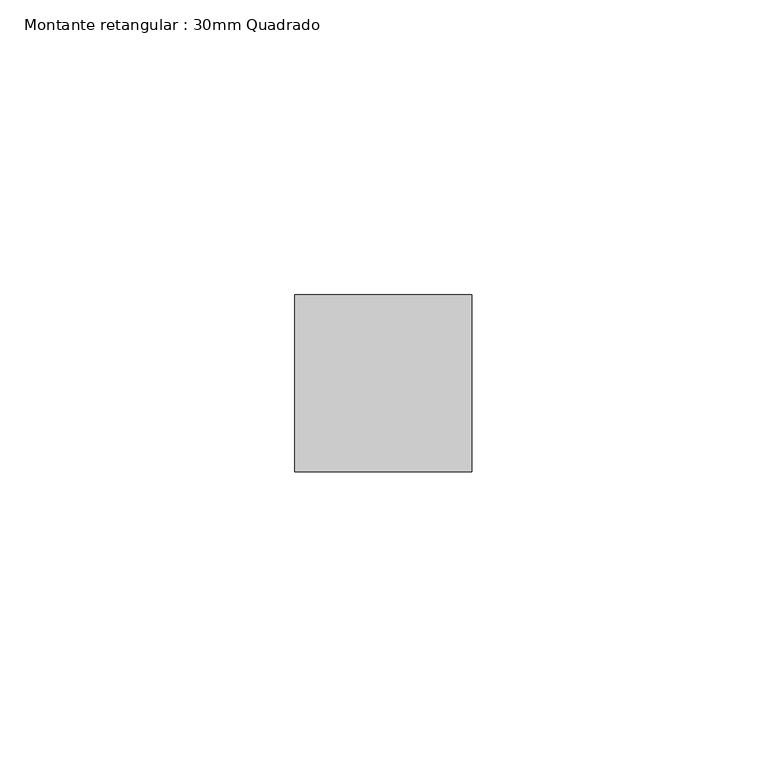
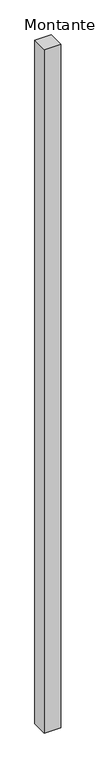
"""IFC4 building model written with IfcOpenShell, lengths in millimetres: member geometry, Montante retangular : 30mm Quadrado."""

import ifcopenshell
import ifcopenshell.guid

model = None  # the IFC model being written
_history = None  # IfcOwnerHistory: only IFC2X3 demands one
_inside = {}  # id of a spatial element -> (the spatial element, [elements in it])
_under = {}  # id of a project, library or spatial element -> (it, [spatial elements below it])
_declared = {}  # id of a project -> (the project, [libraries it declares])
_typed = {}  # id of a type object -> (the type object, [elements of that type])
_made_of = {}  # id of a material, layer set ... -> (it, [elements and type objects made of it])


def new_model(schema):
    """Start an empty IFC model of exactly this schema.

    Asked for "IFC4X3", IfcOpenShell would pick the latest addendum, in which some entities
    have other attributes; the version numbers below select the first issue.
    IFC2X3 requires an IfcOwnerHistory on every rooted entity: one is made here for all.
    """
    global model, _history
    if schema == "IFC4X3":
        model = ifcopenshell.file(schema_version=(4, 3, 0, 0))
    else:
        model = ifcopenshell.file(schema=schema)
    _inside.clear()
    _under.clear()
    _declared.clear()
    _typed.clear()
    _made_of.clear()
    _history = None
    if model.schema == "IFC2X3":
        org = make("IfcOrganization", Name="unknown")
        user = make(
            "IfcPersonAndOrganization",
            ThePerson=make("IfcPerson", FamilyName="unknown"),
            TheOrganization=org,
        )
        app = make(
            "IfcApplication",
            ApplicationDeveloper=org,
            Version="unknown",
            ApplicationFullName="unknown",
            ApplicationIdentifier="unknown",
        )
        _history = make(
            "IfcOwnerHistory",
            OwningUser=user,
            OwningApplication=app,
            ChangeAction="ADDED",
            CreationDate=0,
        )
    return model


def make(cls, **values):
    """One entity of the class cls with the attributes given. An attribute that is None is left unset."""
    return model.create_entity(
        cls, **{name: value for name, value in values.items() if value is not None}
    )


def rooted(cls, **values):
    """An entity with a GlobalId (a new one), such as an element, a storey or a relation."""
    return make(cls, GlobalId=ifcopenshell.guid.new(), OwnerHistory=_history, **values)


def si_unit(unit_type, name, prefix=None):
    """IfcSIUnit, for example si_unit("LENGTHUNIT", "METRE", prefix="MILLI")."""
    return make("IfcSIUnit", UnitType=unit_type, Prefix=prefix, Name=name)


def assignment(units):
    """IfcUnitAssignment: the units of a project."""
    return None if units is None else make("IfcUnitAssignment", Units=units)


def point(xyz):
    """IfcCartesianPoint."""
    return None if xyz is None else make("IfcCartesianPoint", Coordinates=xyz)


def direction(xyz):
    """IfcDirection."""
    return None if xyz is None else make("IfcDirection", DirectionRatios=xyz)


def frame(location, z_axis=None, x_axis=None):
    """IfcAxis2Placement3D, a coordinate frame: its origin and axes. An axis left out is left unset."""
    return make(
        "IfcAxis2Placement3D",
        Location=point(location),
        Axis=direction(z_axis),
        RefDirection=direction(x_axis),
    )


def origin():
    """The frame at (0, 0, 0) with its axes left unset."""
    return frame((0.0, 0.0, 0.0))


def place(relative_to, where):
    """IfcLocalPlacement: puts the frame where relative to a parent placement (None: the world)."""
    return make(
        "IfcLocalPlacement", PlacementRelTo=relative_to, RelativePlacement=where
    )


def context(
    kind, dimensions, precision=None, world=None, true_north=None, identifier=None
):
    """IfcGeometricRepresentationContext, for example the 3D "Model" context."""
    return make(
        "IfcGeometricRepresentationContext",
        ContextIdentifier=identifier,
        ContextType=kind,
        CoordinateSpaceDimension=dimensions,
        Precision=precision,
        WorldCoordinateSystem=world,
        TrueNorth=true_north,
    )


def project(units=None, contexts=None):
    """IfcProject with its units and contexts."""
    return rooted(
        "IfcProject",
        Name="project",
        RepresentationContexts=contexts,
        UnitsInContext=assignment(units),
    )


def spatial(cls, under=None, at=None, **own):
    """A site, building, storey or space (cls), placed at a placement, below another one or the project."""
    s = rooted(cls, ObjectPlacement=at, **own)
    if under is not None:
        _under.setdefault(under.id(), (under, []))[1].append(s)
    return s


def polyline(points):
    """IfcPolyline through the points."""
    return make("IfcPolyline", Points=[point(p) for p in points])


def outline(outer, holes=None, kind="AREA"):
    """IfcArbitraryClosedProfileDef: a profile drawn as a closed curve; with holes, ...WithVoids."""
    if holes is None:
        return make("IfcArbitraryClosedProfileDef", ProfileType=kind, OuterCurve=outer)
    return make(
        "IfcArbitraryProfileDefWithVoids",
        ProfileType=kind,
        OuterCurve=outer,
        InnerCurves=holes,
    )


def extrude(swept, where, along, depth):
    """IfcExtrudedAreaSolid: the profile swept, set in the frame where, extruded along a direction by depth."""
    return make(
        "IfcExtrudedAreaSolid",
        SweptArea=swept,
        Position=where,
        ExtrudedDirection=direction(along),
        Depth=depth,
    )


def shape(context_of_items, identifier, shape_type, items):
    """IfcShapeRepresentation: the items that make up one representation, for example the "Body"."""
    return make(
        "IfcShapeRepresentation",
        ContextOfItems=context_of_items,
        RepresentationIdentifier=identifier,
        RepresentationType=shape_type,
        Items=items,
    )


def source(mapping_origin, context_of_items, identifier, shape_type, items):
    """IfcRepresentationMap: a shape defined once, which mapped items show again and again."""
    return make(
        "IfcRepresentationMap",
        MappingOrigin=mapping_origin,
        MappedRepresentation=shape(context_of_items, identifier, shape_type, items),
    )


def transform(
    local_origin,
    x_axis=None,
    y_axis=None,
    z_axis=None,
    scale=None,
    scale2=None,
    scale3=None,
    uniform=True,
):
    """IfcCartesianTransformationOperator3D, or its non-uniform kind. x_axis, y_axis, z_axis: its Axis1, 2, 3."""
    if uniform:
        return make(
            "IfcCartesianTransformationOperator3D",
            Axis1=direction(x_axis),
            Axis2=direction(y_axis),
            LocalOrigin=point(local_origin),
            Scale=scale,
            Axis3=direction(z_axis),
        )
    return make(
        "IfcCartesianTransformationOperator3DnonUniform",
        Axis1=direction(x_axis),
        Axis2=direction(y_axis),
        LocalOrigin=point(local_origin),
        Scale=scale,
        Axis3=direction(z_axis),
        Scale2=scale2,
        Scale3=scale3,
    )


def mapped(mapping_source, mapping_target):
    """IfcMappedItem: shows the shape of a source again, moved by a transform."""
    return make(
        "IfcMappedItem", MappingSource=mapping_source, MappingTarget=mapping_target
    )


def made_of(thing, what):
    """Note that an element or type object is made of a material, layer set ...; save() writes the relation."""
    if what is not None:
        _made_of.setdefault(what.id(), (what, []))[1].append(thing)
    return thing


def element(
    cls,
    number,
    at=None,
    inside=None,
    cuts=None,
    type_object=None,
    material=None,
    context=None,
    identifier="Body",
    shape_type=None,
    held_by="IfcProductDefinitionShape",
    body=None,
    shapes=None,
    **own,
):
    """One element of the class cls, such as IfcWall. Its Tag is "e" and its number.

    at: its placement. inside: the storey or other place that contains it. cuts: it is an
    opening in that element (IfcRelVoidsElement). A single representation is given by context,
    identifier, shape_type and body (its items); several are given by shapes. held_by: the class
    of the entity that holds the representations. save() writes the other relations.
    """
    e = rooted(cls, Tag="e%d" % number, ObjectPlacement=at, **own)
    if body is not None:
        shapes = [shape(context, identifier, shape_type, body)]
    if shapes is not None:
        e.Representation = make(held_by, Representations=shapes)
    if inside is not None:
        _inside.setdefault(inside.id(), (inside, []))[1].append(e)
    if cuts is not None:
        rooted(
            "IfcRelVoidsElement", RelatingBuildingElement=cuts, RelatedOpeningElement=e
        )
    if type_object is not None:
        _typed.setdefault(type_object.id(), (type_object, []))[1].append(e)
    return made_of(e, material)


def aggregate(whole, parts):
    """IfcRelAggregates: a whole, such as a stair, and the parts it consists of."""
    return rooted("IfcRelAggregates", RelatingObject=whole, RelatedObjects=parts)


def save(model, path):
    """Write the relations noted so far, then the file.

    IfcRelAggregates (storeys below a building ...), IfcRelContainedInSpatialStructure (elements
    in a storey), IfcRelDefinesByType, IfcRelAssociatesMaterial and IfcRelDeclares: one each for
    every whole, place, type object, material and project.
    """
    for whole, parts in _under.values():
        aggregate(whole, parts)
    for where, things in _inside.values():
        rooted(
            "IfcRelContainedInSpatialStructure",
            RelatedElements=things,
            RelatingStructure=where,
        )
    for kind, things in _typed.values():
        rooted("IfcRelDefinesByType", RelatedObjects=things, RelatingType=kind)
    for what, things in _made_of.values():
        rooted("IfcRelAssociatesMaterial", RelatedObjects=things, RelatingMaterial=what)
    for by, libraries in _declared.values():
        rooted("IfcRelDeclares", RelatingContext=by, RelatedDefinitions=libraries)
    model.write(path)


def montante_retangular_30mm_quadrado_e99e8ec6(model_context):
    return source(origin(), model_context, "Body", "SweptSolid", [
        extrude(outline(polyline([(0.0, 15.0), (0.0, -15.0), (-30.0, -15.0), (-30.0, 15.0), (0.0, 15.0)])), frame((0.0, 0.0, -1331.1500336), z_axis=(0.0, 0.0, 1.0), x_axis=(1.0, 0.0, 0.0)), (0.0, 0.0, 1.0), 1331.1500336),
    ])


if __name__ == "__main__":
    model = new_model("IFC4")
    model_context = context("Model", 3, world=origin())
    ifc_project = project(units=[si_unit("LENGTHUNIT", "METRE", prefix="MILLI")], contexts=[model_context])
    site = spatial("IfcSite", under=ifc_project)
    building = spatial("IfcBuilding", under=site)
    placement = place(None, origin())
    montante_retangular_30mm_quadrado_shape = montante_retangular_30mm_quadrado_e99e8ec6(model_context)
    element("IfcMember", 1, ObjectType="Montante retangular : 30mm Quadrado", at=placement, inside=building, context=model_context, shape_type="MappedRepresentation", body=[
        mapped(montante_retangular_30mm_quadrado_shape, transform((0.0, 0.0, 0.0), x_axis=(1.0, 0.0, 0.0), y_axis=(0.0, 1.0, 0.0), z_axis=(0.0, 0.0, 1.0))),
    ])
    save(model, "model.ifc")
